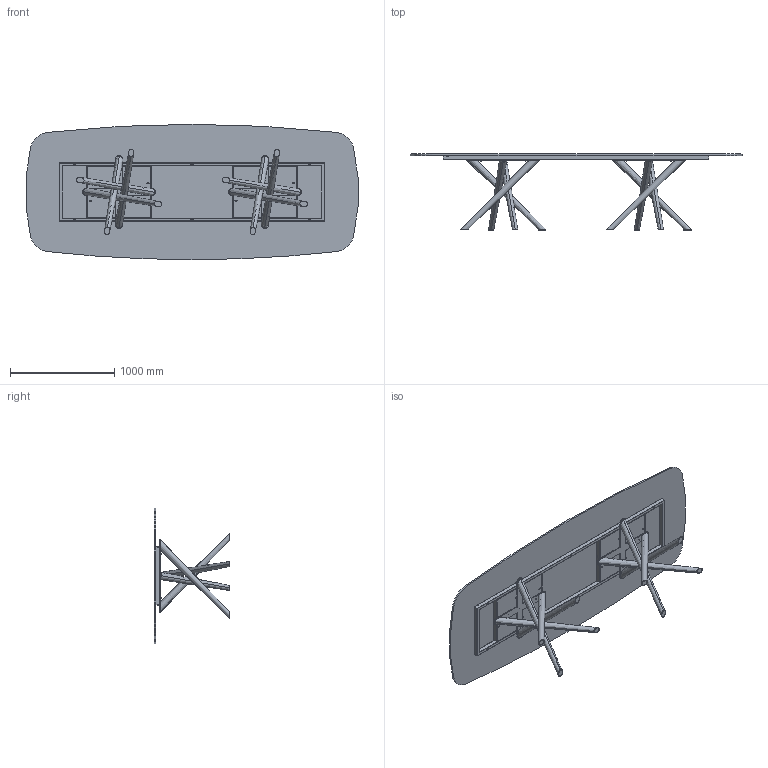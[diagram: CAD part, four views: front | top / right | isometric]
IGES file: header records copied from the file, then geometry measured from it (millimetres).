
Start section: SolidWorks IGES file using analytic representation for surfaces
Global section: file name: Y:\eforma\TECNICO\SOLIDWORKS\E-FORMA\1-TAVOLI\BALY\02 parts\BA46G.IGS; native system: SolidWorks 2022; preprocessor: SolidWorks 2022; author: eforma.tech; date: 240808.080906; units: millimetre
Bounding box: 3189.57 x 730 x 1300 mm (x, y, z)
Volume: 67444306.9 mm3; surface area: 14281819.2 mm2
Topology: 54 solids, 54 shells, 1033 faces, 2337 edges, 1398 vertices
Faces by surface type: revolution 587, plane 430, bspline 16
